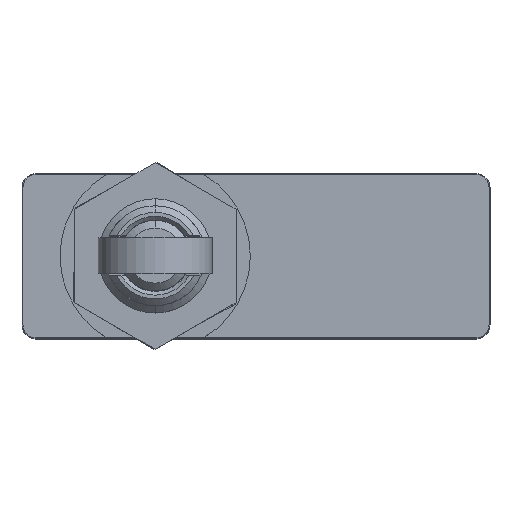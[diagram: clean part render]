
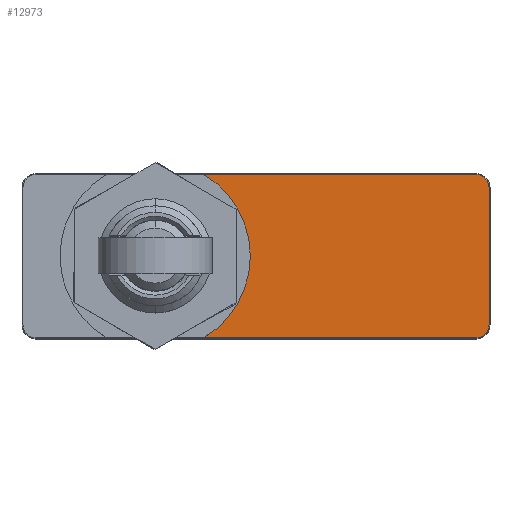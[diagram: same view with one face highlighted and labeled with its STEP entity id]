
A CAD part, top view. The second image highlights one B-rep face of the part: STEP entity #12973.
In plain terms, the highlighted planar face has unit normal (0, 0, 1).
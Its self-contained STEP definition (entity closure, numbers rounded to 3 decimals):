
#153 = DIRECTION ( 'NONE',  ( 0., 0., 1. ) ) ;
#576 = CARTESIAN_POINT ( 'NONE',  ( -23.1, -8.6, 18.4 ) ) ;
#585 = CARTESIAN_POINT ( 'NONE',  ( -5.497, -8.6, 18.4 ) ) ;
#661 = CARTESIAN_POINT ( 'NONE',  ( 23.1, -8.6, 18.4 ) ) ;
#973 = EDGE_CURVE ( 'NONE', #5311, #11850, #8282, .T. ) ;
#986 = AXIS2_PLACEMENT_3D ( 'NONE', #6692, #3482, #11094 ) ;
#1633 = CARTESIAN_POINT ( 'NONE',  ( 23.1, -7.2, 18.4 ) ) ;
#2443 = ORIENTED_EDGE ( 'NONE', *, *, #3771, .T. ) ;
#2726 = DIRECTION ( 'NONE',  ( 1., 0., 0. ) ) ;
#2842 = EDGE_LOOP ( 'NONE', ( #12314, #2443, #12933, #9946, #5107, #6487 ) ) ;
#3482 = DIRECTION ( 'NONE',  ( 0., 0., 1. ) ) ;
#3771 = EDGE_CURVE ( 'NONE', #5311, #12701, #11586, .T. ) ;
#3871 = VECTOR ( 'NONE', #10767, 1000. ) ;
#4042 = EDGE_CURVE ( 'NONE', #7331, #11850, #9654, .T. ) ;
#4710 = DIRECTION ( 'NONE',  ( 0., 1., 0. ) ) ;
#4875 = AXIS2_PLACEMENT_3D ( 'NONE', #5488, #13090, #6561 ) ;
#5107 = ORIENTED_EDGE ( 'NONE', *, *, #9828, .T. ) ;
#5272 = EDGE_CURVE ( 'NONE', #12701, #8902, #9957, .T. ) ;
#5311 = VERTEX_POINT ( 'NONE', #585 ) ;
#5488 = CARTESIAN_POINT ( 'NONE',  ( 23.1, 7.2, 18.4 ) ) ;
#5611 = VECTOR ( 'NONE', #4710, 1000. ) ;
#5906 = AXIS2_PLACEMENT_3D ( 'NONE', #1633, #9222, #2726 ) ;
#6016 = DIRECTION ( 'NONE',  ( 1., 0., 0. ) ) ;
#6487 = ORIENTED_EDGE ( 'NONE', *, *, #4042, .T. ) ;
#6561 = DIRECTION ( 'NONE',  ( 1., 0., 0. ) ) ;
#6636 = CARTESIAN_POINT ( 'NONE',  ( -10.6, 0., 18.4 ) ) ;
#6692 = CARTESIAN_POINT ( 'NONE',  ( 23.1, -7.2, 18.4 ) ) ;
#6806 = CARTESIAN_POINT ( 'NONE',  ( 24.5, -7.2, 18.4 ) ) ;
#6944 = FACE_OUTER_BOUND ( 'NONE', #2842, .T. ) ;
#6962 = CARTESIAN_POINT ( 'NONE',  ( 24.5, 7.2, 18.4 ) ) ;
#7331 = VERTEX_POINT ( 'NONE', #11198 ) ;
#7728 = DIRECTION ( 'NONE',  ( 1., 0., 0. ) ) ;
#8282 = CIRCLE ( 'NONE', #9420, 10. ) ;
#8509 = LINE ( 'NONE', #6806, #5611 ) ;
#8902 = VERTEX_POINT ( 'NONE', #13104 ) ;
#9149 = CARTESIAN_POINT ( 'NONE',  ( -5.497, 8.6, 18.4 ) ) ;
#9222 = DIRECTION ( 'NONE',  ( 0., 0., 1. ) ) ;
#9420 = AXIS2_PLACEMENT_3D ( 'NONE', #6636, #153, #7728 ) ;
#9654 = LINE ( 'NONE', #9658, #3871 ) ;
#9658 = CARTESIAN_POINT ( 'NONE',  ( 23.1, 8.6, 18.4 ) ) ;
#9828 = EDGE_CURVE ( 'NONE', #12565, #7331, #11464, .T. ) ;
#9946 = ORIENTED_EDGE ( 'NONE', *, *, #11798, .T. ) ;
#9957 = CIRCLE ( 'NONE', #5906, 1.4 ) ;
#10767 = DIRECTION ( 'NONE',  ( -1., 0., 0. ) ) ;
#11094 = DIRECTION ( 'NONE',  ( 1., 0., 0. ) ) ;
#11198 = CARTESIAN_POINT ( 'NONE',  ( 23.1, 8.6, 18.4 ) ) ;
#11216 = VECTOR ( 'NONE', #6016, 1000. ) ;
#11464 = CIRCLE ( 'NONE', #4875, 1.4 ) ;
#11586 = LINE ( 'NONE', #576, #11216 ) ;
#11798 = EDGE_CURVE ( 'NONE', #8902, #12565, #8509, .T. ) ;
#11850 = VERTEX_POINT ( 'NONE', #9149 ) ;
#12135 = PLANE ( 'NONE',  #986 ) ;
#12314 = ORIENTED_EDGE ( 'NONE', *, *, #973, .F. ) ;
#12565 = VERTEX_POINT ( 'NONE', #6962 ) ;
#12701 = VERTEX_POINT ( 'NONE', #661 ) ;
#12933 = ORIENTED_EDGE ( 'NONE', *, *, #5272, .T. ) ;
#12973 = ADVANCED_FACE ( 'NONE', ( #6944 ), #12135, .T. ) ;
#13090 = DIRECTION ( 'NONE',  ( 0., 0., 1. ) ) ;
#13104 = CARTESIAN_POINT ( 'NONE',  ( 24.5, -7.2, 18.4 ) ) ;
